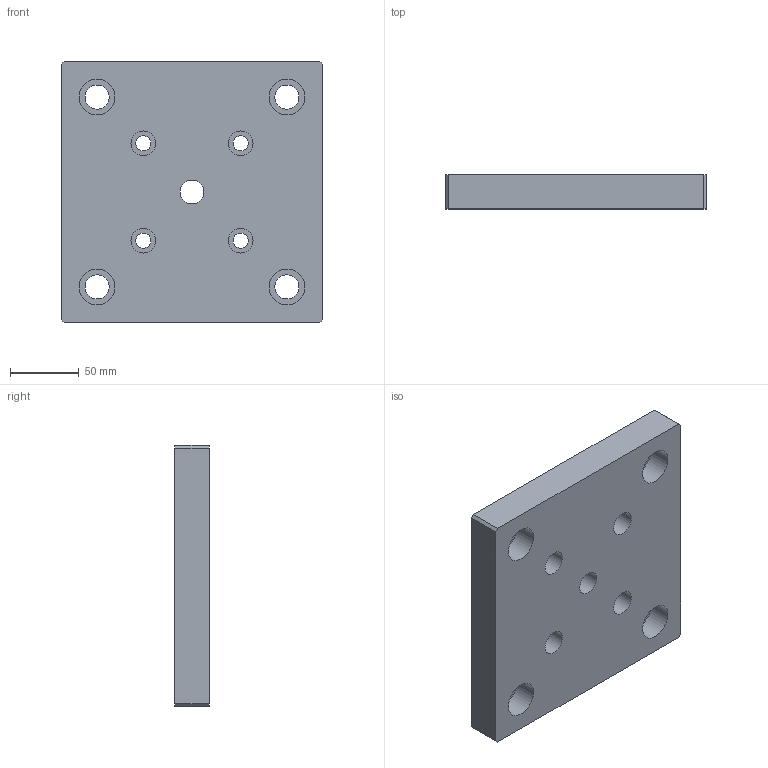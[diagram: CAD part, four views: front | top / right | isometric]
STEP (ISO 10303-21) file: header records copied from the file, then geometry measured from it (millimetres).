
FILE_DESCRIPTION(/* description */ (''),/* implementation_level */ '2;1');
FILE_NAME(/* name */ 'C:\Users\Jefferson\Desktop\Biblioteca Pro Nitro 2024\Flanges\PNB-56-XXX\PNB-56-150.stp',/* time_stamp */ '2024-01-29T14:24:17-03:00',/* author */ ('Jefferson'),/* organization */ (''),/* preprocessor_version */ 'ST-DEVELOPER v18.1',/* originating_system */ 'Autodesk Inventor 2021',/* authorisation */ '');
FILE_SCHEMA (('AUTOMOTIVE_DESIGN { 1 0 10303 214 3 1 1 }'));
Length unit declared in the file: millimetre
Products named in the file (1): PNB-56-150
Bounding box: 190 x 25 x 190 mm (x, y, z)
Volume: 833543.8 mm3; surface area: 101393.8 mm2
Topology: 1 solids, 1 shells, 192 faces, 518 edges, 351 vertices
Faces by surface type: plane 95, bspline 80, cylinder 17
Full cylindrical faces by diameter (mm): 11 x4, 17.294 x1, 17.5 x4, 18 x4, 26 x4
Entity records: 6526 total; most frequent: CARTESIAN_POINT 2102, ORIENTED_EDGE 1036, DIRECTION 635, EDGE_CURVE 518, VERTEX_POINT 351, LINE 307, VECTOR 307, EDGE_LOOP 233
